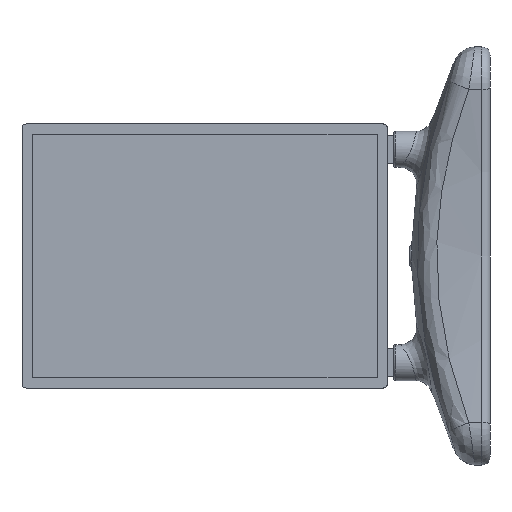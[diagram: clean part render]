
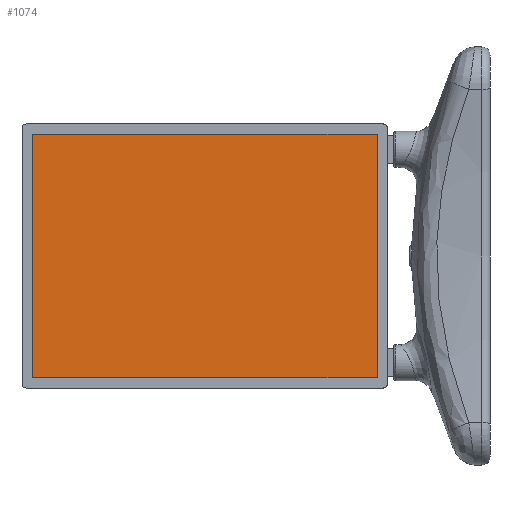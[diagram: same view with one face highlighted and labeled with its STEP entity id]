
A CAD part, left-side view. The second image highlights one B-rep face of the part: STEP entity #1074.
In plain terms, the highlighted planar face has unit normal (-1, 0, 0).
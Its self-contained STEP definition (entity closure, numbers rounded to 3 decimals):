
#69=LINE('',#3081,#143);
#70=LINE('',#3083,#144);
#71=LINE('',#3085,#145);
#72=LINE('',#3086,#146);
#143=VECTOR('',#1426,10.);
#144=VECTOR('',#1427,10.);
#145=VECTOR('',#1428,10.);
#146=VECTOR('',#1429,10.);
#195=PLANE('',#1198);
#273=FACE_OUTER_BOUND('',#344,.T.);
#344=EDGE_LOOP('',(#913,#914,#915,#916));
#517=VERTEX_POINT('',#3079);
#518=VERTEX_POINT('',#3080);
#519=VERTEX_POINT('',#3082);
#520=VERTEX_POINT('',#3084);
#657=EDGE_CURVE('',#517,#518,#69,.T.);
#658=EDGE_CURVE('',#519,#517,#70,.T.);
#659=EDGE_CURVE('',#520,#519,#71,.T.);
#660=EDGE_CURVE('',#518,#520,#72,.T.);
#913=ORIENTED_EDGE('',*,*,#657,.F.);
#914=ORIENTED_EDGE('',*,*,#658,.F.);
#915=ORIENTED_EDGE('',*,*,#659,.F.);
#916=ORIENTED_EDGE('',*,*,#660,.F.);
#1074=ADVANCED_FACE('',(#273),#195,.T.);
#1198=AXIS2_PLACEMENT_3D('',#3078,#1424,#1425);
#1424=DIRECTION('center_axis',(-1.,0.,0.));
#1425=DIRECTION('ref_axis',(0.,0.,1.));
#1426=DIRECTION('',(0.,0.,-1.));
#1427=DIRECTION('',(0.,-1.,0.));
#1428=DIRECTION('',(0.,0.,1.));
#1429=DIRECTION('',(0.,1.,0.));
#3078=CARTESIAN_POINT('Origin',(-2.5,0.,0.));
#3079=CARTESIAN_POINT('',(-2.5,-420.5,297.));
#3080=CARTESIAN_POINT('',(-2.5,-420.5,-297.));
#3081=CARTESIAN_POINT('',(-2.5,-420.5,-148.5));
#3082=CARTESIAN_POINT('',(-2.5,420.5,297.));
#3083=CARTESIAN_POINT('',(-2.5,-210.25,297.));
#3084=CARTESIAN_POINT('',(-2.5,420.5,-297.));
#3085=CARTESIAN_POINT('',(-2.5,420.5,148.5));
#3086=CARTESIAN_POINT('',(-2.5,210.25,-297.));
